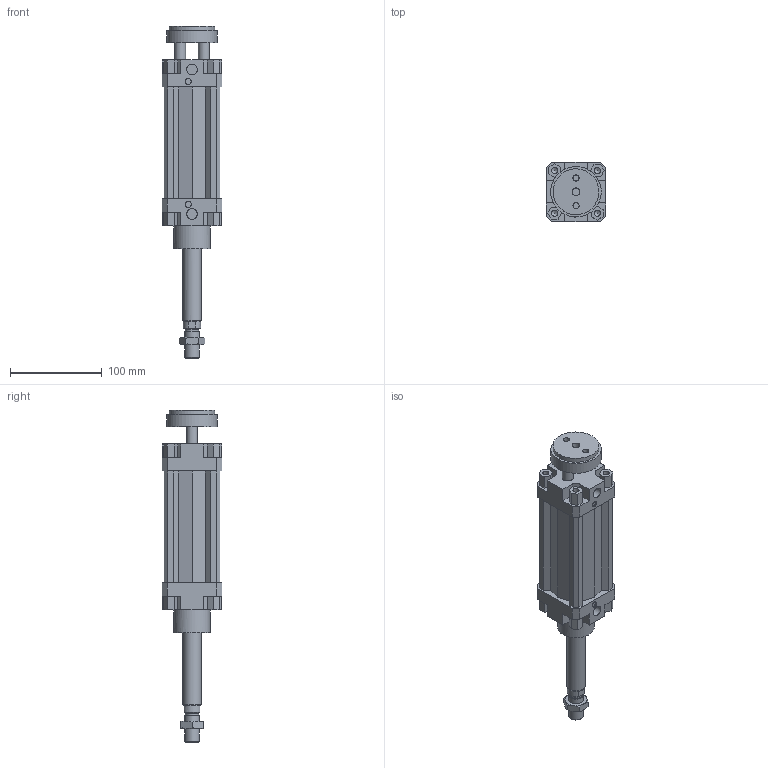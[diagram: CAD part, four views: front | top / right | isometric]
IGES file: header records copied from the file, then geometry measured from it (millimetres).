
Global section: file name: 132#_050_0075_02; native system: Autodesk Inventor 2014; preprocessor: unknown; author: A. Manieri; date: 20161006.155705; units: millimetre
Bounding box: 65 x 65 x 362 mm (x, y, z)
Volume: 560639.5 mm3; surface area: 137941.4 mm2
Topology: 3 solids, 3 shells, 220 faces, 590 edges, 398 vertices
Faces by surface type: bspline 220
